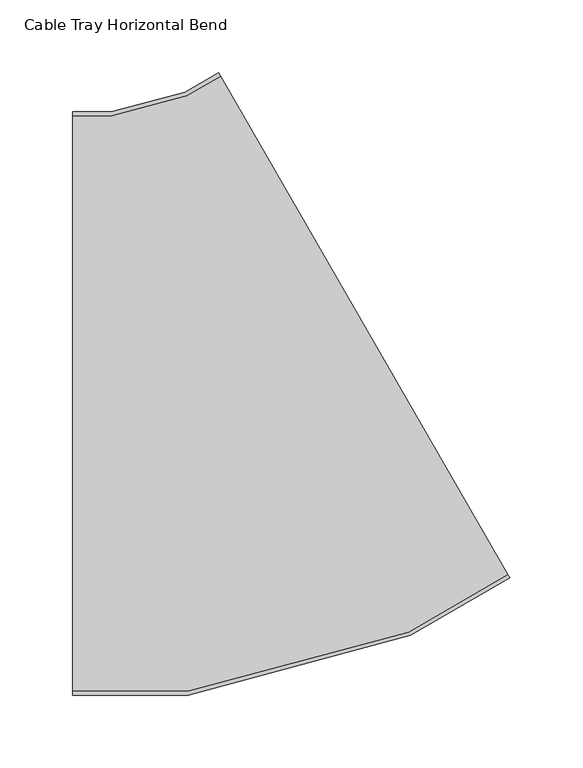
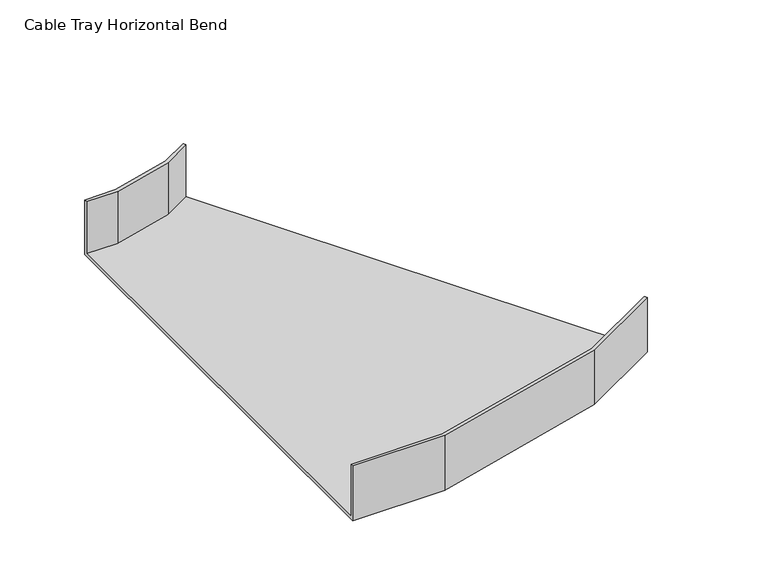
"""IFC4 building model written with IfcOpenShell, lengths in millimetres: cable carrier fitting geometry, Cable Tray Horizontal Bend : ELEC_SUB_CT_N2402."""

from ifc_helpers import new_model, si_unit, origin, place, context, project, spatial, faceted_brep, source, transform, mapped, element, save


def cable_tray_horizontal_bend_6dfea8e0(model_context):
    return source(origin(), model_context, "Body", "Brep", [
        faceted_brep([(-107.179677, -200.0, -25.0), (-107.179677, -200.0, 25.0), (-107.179677, -197.46, 25.0), (-107.179677, -197.46, -22.46), (-107.179677, 197.46, -22.46), (-107.179677, 197.46, 25.0), (-107.179677, 200.0, 25.0), (-107.179677, 200.0, -25.0), (192.820323, -119.6152423, -25.0), (-7.179677, 226.7949192, -25.0), (-7.179677, 226.7949192, 25.0), (-5.909677, 224.5952147, 25.0), (-5.909677, 224.5952147, -22.46), (191.550323, -117.4155378, -22.46), (191.550323, -117.4155378, 25.0), (192.820323, -119.6152423, 25.0), (-28.1881784, -200.0, -25.0), (-28.1881784, -200.0, 25.0), (124.4116786, -159.1109915, 25.0), (123.4312752, -156.7440884, 25.0), (-28.5225758, -197.46, 25.0), (-28.5225758, -197.46, -22.46), (123.4312752, -156.7440884, -22.46), (-29.002155, 211.2627663, -22.46), (-80.5147801, 197.46, -22.46), (-80.5147801, 197.46, 25.0), (-29.002155, 211.2627663, 25.0), (-29.9825584, 213.6296695, 25.0), (-80.8491775, 200.0, 25.0), (-80.8491775, 200.0, -25.0), (-29.9825584, 213.6296695, -25.0), (124.4116786, -159.1109915, -25.0)], [[[0, 1, 2, 3, 4, 5, 6, 7]], [[8, 9, 10, 11, 12, 13, 14, 15]], [[1, 0, 16, 17]], [[2, 1, 17, 18, 15, 14, 19, 20]], [[3, 2, 20, 21]], [[4, 3, 21, 22, 13, 12, 23, 24]], [[5, 4, 24, 25]], [[6, 5, 25, 26, 11, 10, 27, 28]], [[7, 6, 28, 29]], [[0, 7, 29, 30, 9, 8, 31, 16]], [[17, 16, 31, 18]], [[21, 20, 19, 22]], [[25, 24, 23, 26]], [[29, 28, 27, 30]], [[18, 31, 8, 15]], [[22, 19, 14, 13]], [[26, 23, 12, 11]], [[30, 27, 10, 9]]]),
    ])


if __name__ == "__main__":
    model = new_model("IFC4")
    model_context = context("Model", 3, world=origin())
    ifc_project = project(units=[si_unit("LENGTHUNIT", "METRE", prefix="MILLI")], contexts=[model_context])
    site = spatial("IfcSite", under=ifc_project)
    building = spatial("IfcBuilding", under=site)
    placement = place(None, origin())
    cable_tray_horizontal_bend_shape = cable_tray_horizontal_bend_6dfea8e0(model_context)
    element("IfcCableCarrierFitting", 1, ObjectType="Cable Tray Horizontal Bend : ELEC_SUB_CT_N2402", at=placement, inside=building, context=model_context, shape_type="MappedRepresentation", body=[
        mapped(cable_tray_horizontal_bend_shape, transform((0.0, 0.0, 0.0), x_axis=(1.0, 0.0, 0.0), y_axis=(0.0, 1.0, 0.0), z_axis=(0.0, 0.0, 1.0))),
    ])
    save(model, "model.ifc")
